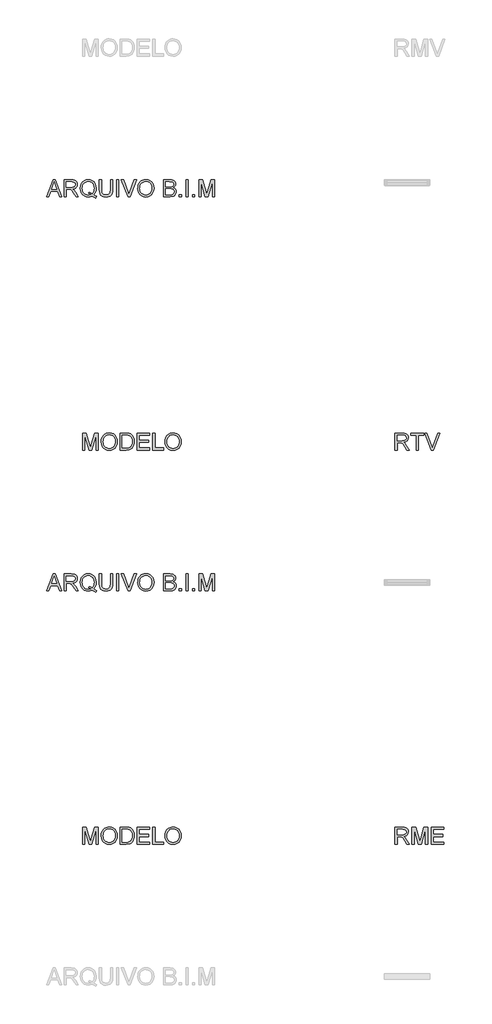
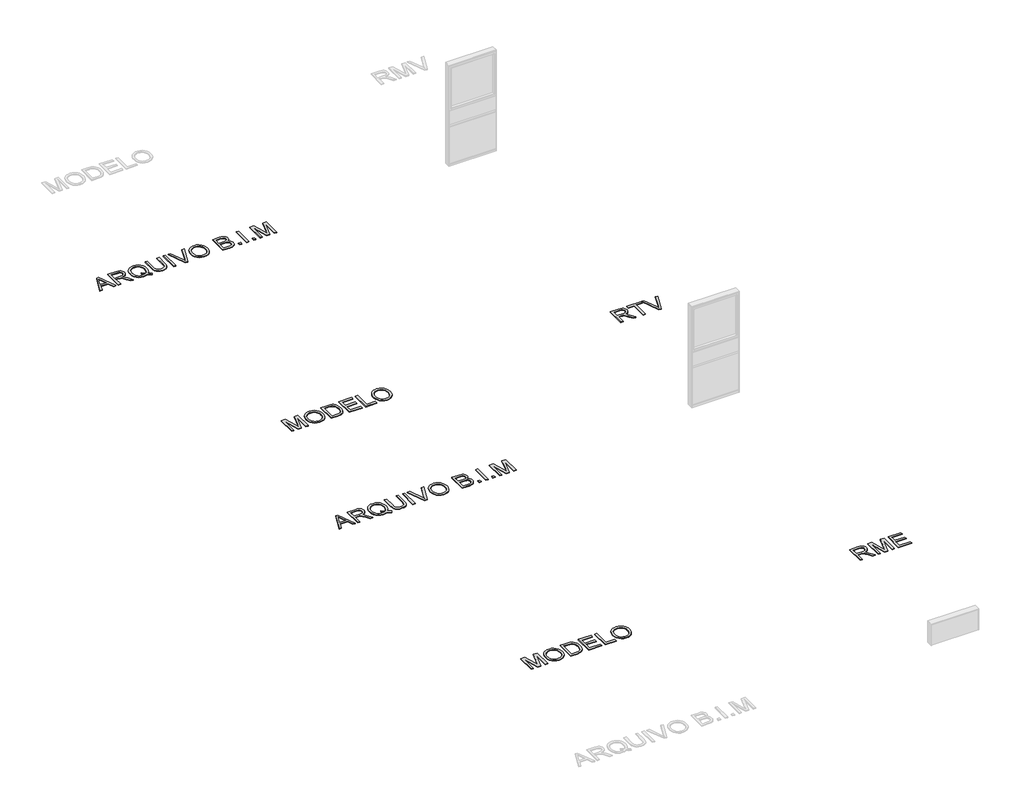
# One storey, part 4 of 15: 6 proxies.
"""IFC4 building model written with IfcOpenShell, lengths in millimetres."""

from ifc_helpers import new_model, si_unit, origin, origin_with_axes, place, context, project, spatial, polyline, outline, extrude, element, save

model = new_model("IFC4")

# Units and contexts
model_context = context("Model", 3, world=origin())
ifc_project = project(units=[si_unit("LENGTHUNIT", "METRE", prefix="MILLI")], contexts=[model_context])

# Site, building, storey
site = spatial("IfcSite", under=ifc_project)
building = spatial("IfcBuilding", under=site)
storey = spatial("IfcBuildingStorey", under=building, Name="Marelli - Linha REASONS - Planta Baixa", Elevation=0.0)

# Proxies
placement = place(None, origin())
element("IfcBuildingElementProxy", 1, Name="300mm Arial", ObjectType="300mm Arial", at=placement, inside=storey, context=model_context, shape_type="SweptSolid", body=[
    extrude(outline(polyline([(9390.580402, -133280.5663201), (9510.8778144, -132979.1973896), (9542.9571244, -132979.1973896), (9663.2545368, -133280.5663201), (9623.449705, -133280.5663201), (9588.9423738, -133186.3885293), (9464.8189886, -133186.3885293), (9430.3852339, -133280.5663201), (9390.580402, -133280.5663201)]), holes=[polyline([(9478.6513517, -133148.717413), (9575.1835872, -133148.717413), (9548.0338959, -133074.6259792), (9526.9174694, -133016.8685059), (9508.1554877, -133068.1512561), (9478.6513517, -133148.717413)])]), origin_with_axes(), (0.0, 0.0, 1.0), 10.0),
    extrude(outline(polyline([(9703.5008271, -133280.5663201), (9703.5008271, -132979.1973896), (9833.3631714, -132979.1973896), (9868.2659757, -132981.2299376), (9893.6590304, -132987.3275817), (9912.2186771, -132998.5847708), (9926.6212572, -133016.0959537), (9935.8642923, -133037.8101885), (9938.945304, -133061.6765329), (9933.8409413, -133091.3646099), (9918.5278533, -133115.9759154), (9906.9280741, -133126.0052983), (9892.5461874, -133134.0205273), (9855.4360911, -133144.0085235), (9876.8468232, -133160.1217548), (9907.3810288, -133198.8965171), (9957.6337094, -133280.5663201), (9913.855752, -133280.5663201), (9874.6395313, -133218.0999573), (9846.3126176, -133176.750021), (9826.4102017, -133157.2154871), (9808.4943485, -133150.0417882), (9786.642158, -133148.717413), (9741.1719434, -133148.717413), (9741.1719434, -133280.5663201), (9703.5008271, -133280.5663201)]), holes=[polyline([(9741.1719434, -133111.0462967), (9825.4904967, -133111.0462967), (9849.706329, -133109.7127245), (9868.4959019, -133105.7120078), (9882.6409647, -133098.7774322), (9892.9232664, -133088.6422832), (9899.1864574, -133076.3826157), (9901.2741877, -133063.0744845), (9897.2918651, -133044.6987789), (9885.3448973, -133029.8915286), (9864.7894908, -133020.1242616), (9834.9818522, -133016.8685059), (9741.1719434, -133016.8685059), (9741.1719434, -133111.0462967)])]), origin_with_axes(), (0.0, 0.0, 1.0), 10.0),
    extrude(outline(polyline([(10231.2643374, -133244.4403081), (10255.5997314, -133263.036743), (10277.9853508, -133275.8574305), (10267.8318077, -133303.4485802), (10236.7641732, -133289.0460001), (10205.8069033, -133268.205485), (10170.9500843, -133281.0077785), (10132.5983863, -133285.2752096), (10094.0627473, -133280.3547879), (10059.2427164, -133265.5935229), (10030.0788713, -133241.9203165), (10008.5117893, -133210.2640708), (9995.185264, -133172.3630282), (9990.7430889, -133129.9554312), (9995.176067, -133087.511046), (10008.4750011, -133049.0581805), (10029.9593096, -133016.9512794), (10058.9484108, -132993.5447874), (10093.639683, -132979.2525719), (10132.2305043, -132974.4885001), (10171.1248282, -132979.3629365), (10205.9908443, -132993.9862458), (10234.9339603, -133017.3835407), (10256.0595839, -133048.5799339), (10268.9722419, -133085.9199564), (10273.2764612, -133127.7481393), (10270.6644991, -133162.5313819), (10262.8286126, -133193.5990164), (10249.7136194, -133220.9142546), (10231.2643374, -133244.4403081)]), holes=[polyline([(10142.9726585, -133194.3347804), (10174.6472983, -133206.3093393), (10200.215097, -133222.9559996), (10215.6983305, -133205.4816049), (10226.7577829, -133184.1076609), (10233.3934544, -133158.8341679), (10235.6053449, -133129.6611256), (10232.478348, -133096.5057608), (10223.0973571, -133067.8201623), (10207.6922985, -133044.3308969), (10186.4930986, -133026.7645316), (10160.934497, -133015.8108452), (10132.4512335, -133012.1596164), (10110.966925, -133014.0059242), (10091.3956028, -133019.5448474), (10073.7372671, -133028.7763863), (10057.9919177, -133041.7005406), (10045.0516685, -133058.2897193), (10035.8086334, -133078.5163313), (10030.2628123, -133102.3803764), (10028.4142052, -133129.8818548), (10030.2421189, -133156.6659634), (10035.7258599, -133180.1437324), (10044.8654282, -133200.3151621), (10057.6608239, -133217.1802523), (10073.2981079, -133230.4906827), (10090.9633415, -133239.9981331), (10110.6565245, -133245.7026032), (10132.3776571, -133247.6040933), (10153.2917485, -133245.6727128), (10172.918253, -133239.8785714), (10153.6228423, -133229.853787), (10133.2605739, -133223.1767288), (10142.9726585, -133194.3347804)])]), origin_with_axes(), (0.0, 0.0, 1.0), 10.0),
    extrude(outline(polyline([(10527.5564963, -132979.1973896), (10565.2276126, -132979.1973896), (10565.2276126, -133153.0584205), (10562.6708327, -133193.7737604), (10555.0004931, -133225.1265034), (10540.6714894, -133249.3147446), (10518.1387172, -133268.5365788), (10487.3469942, -133281.0905519), (10448.2411381, -133285.2752096), (10409.9906077, -133281.6331779), (10379.4104168, -133270.7070826), (10356.4913685, -133252.8740029), (10341.2242657, -133228.5110178), (10332.6434182, -133195.8338995), (10329.7831357, -133153.0584205), (10329.7831357, -132979.1973896), (10367.454252, -132979.1973896), (10367.454252, -133151.7340454), (10369.3120561, -133185.588386), (10374.8854683, -133209.1604248), (10384.9838291, -133225.4851883), (10400.4164788, -133237.597703), (10420.5396239, -133245.1024957), (10444.709471, -133247.6040933), (10483.0243808, -133242.6560805), (10497.3671801, -133236.4710644), (10508.500209, -133227.812042), (10516.8373347, -133215.6351479), (10522.7924245, -133198.8965171), (10527.5564963, -133151.7340454), (10527.5564963, -132979.1973896)])), origin_with_axes(), (0.0, 0.0, 1.0), 10.0),
    extrude(outline(polyline([(10635.8609557, -133280.5663201), (10635.8609557, -132979.1973896), (10673.532072, -132979.1973896), (10673.532072, -133280.5663201), (10635.8609557, -133280.5663201)])), origin_with_axes(), (0.0, 0.0, 1.0), 10.0),
    extrude(outline(polyline([(10837.9017474, -133280.5663201), (10717.972217, -132979.1973896), (10758.2920837, -132979.1973896), (10838.563935, -133196.3213432), (10854.8243192, -133245.2496485), (10870.8639742, -133196.3213432), (10951.3565547, -132979.1973896), (10991.6764214, -132979.1973896), (10876.8236625, -133280.5663201), (10837.9017474, -133280.5663201)])), origin_with_axes(), (0.0, 0.0, 1.0), 10.0),
    extrude(outline(polyline([(11012.5721187, -133133.8549804), (11015.0829134, -133098.5061192), (11022.6152972, -133067.213157), (11035.1692703, -133039.9760937), (11052.7448326, -133016.7949295), (11074.288922, -132998.2858666), (11098.7484761, -132985.0651074), (11126.1234951, -132977.1326519), (11156.4139789, -132974.4885001), (11195.9428992, -132979.454907), (11231.3883295, -132994.3541278), (11260.8188891, -133018.1376988), (11282.3031976, -133049.7571563), (11295.4365848, -133087.68579), (11299.8143806, -133130.3968896), (11295.2066586, -133173.6782064), (11281.3834926, -133212.140269), (11259.1082378, -133243.8149088), (11229.1442493, -133266.733957), (11194.0023217, -133280.6398965), (11156.1932497, -133285.2752096), (11116.057324, -133280.1524528), (11080.4095587, -133264.7841825), (11051.0525754, -133240.5591531), (11029.7889961, -133208.8661192), (11016.8763381, -133172.3998164), (11012.5721187, -133133.8549804)]), holes=[polyline([(11050.2432351, -133134.2228624), (11052.126331, -133159.1974513), (11057.7756189, -133181.3669401), (11067.1910987, -133200.7313286), (11080.3727705, -133217.2906169), (11096.3963306, -133230.5527628), (11114.3374757, -133240.0257242), (11134.1962056, -133245.709501), (11155.9725205, -133247.6040933), (11178.1213158, -133245.6911069), (11198.2145706, -133239.9521478), (11216.2522846, -133230.3872159), (11232.2344581, -133216.9963113), (11245.3195608, -133200.0875351), (11254.6660627, -133179.9689885), (11260.2739639, -133156.6406715), (11262.1432643, -133130.102584), (11258.9426909, -133096.7540812), (11249.3409708, -133067.9305269), (11233.5864244, -133044.358488), (11211.9273719, -133026.7645316), (11185.7985532, -133015.8108452), (11156.6347081, -133012.1596164), (11135.6148506, -133013.9185522), (11116.1125063, -133019.1953595), (11098.1276752, -133027.9900385), (11081.6603574, -133040.302589), (11067.9153664, -133056.7262208), (11058.0975156, -133077.8541437), (11052.2068052, -133103.6863575), (11050.2432351, -133134.2228624)])]), origin_with_axes(), (0.0, 0.0, 1.0), 10.0),
    extrude(outline(polyline([(11469.334404, -133280.5663201), (11469.334404, -132979.1973896), (11584.3343156, -132979.1973896), (11615.9629702, -132981.4138786), (11640.6570491, -132988.0633457), (11659.5845778, -132999.3113377), (11673.9135815, -133015.3234015), (11682.9358874, -133034.1589597), (11685.9433227, -133053.8774346), (11683.414134, -133072.0232141), (11675.8265679, -133089.0837416), (11663.125442, -133104.0105535), (11645.2555741, -133115.7551862), (11666.6019268, -133126.9020107), (11682.3748674, -133143.8613707), (11692.1145432, -133165.5112261), (11695.3611018, -133190.7295368), (11693.1446128, -133211.7447958), (11686.4951457, -133231.2333445), (11676.5715289, -133247.8064284), (11664.5325906, -133260.0752929), (11649.7897196, -133268.9596431), (11631.7543048, -133275.3791839), (11583.4513989, -133280.5663201), (11469.334404, -133280.5663201)]), holes=[polyline([(11507.0055203, -133101.6285176), (11575.7994534, -133101.6285176), (11615.9721672, -133098.3911561), (11630.0344565, -133092.8085468), (11640.1420143, -133084.4484284), (11646.2396584, -133073.4395597), (11648.2722064, -133059.9106994), (11646.3776141, -133046.7773121), (11640.6938373, -133035.3361821), (11631.4783933, -133026.4058467), (11618.9887996, -133020.8048433), (11570.575529, -133016.8685059), (11507.0055203, -133016.8685059), (11507.0055203, -133101.6285176)]), polyline([(11507.0055203, -133242.8952038), (11584.2607393, -133242.8952038), (11612.2197709, -133241.4236758), (11635.8745832, -133233.2199073), (11651.5463562, -133216.4812765), (11656.1540782, -133204.6538704), (11657.6899855, -133191.0974188), (11655.8873637, -133175.3520694), (11650.4794984, -133161.814012), (11641.0341282, -133151.2282076), (11627.1189917, -133144.3396173), (11607.4097138, -133140.5596298), (11580.5819193, -133139.2996339), (11507.0055203, -133139.2996339), (11507.0055203, -133242.8952038)])]), origin_with_axes(), (0.0, 0.0, 1.0), 10.0),
    extrude(outline(polyline([(11751.8677763, -133280.5663201), (11751.8677763, -133242.8952038), (11789.5388926, -133242.8952038), (11789.5388926, -133280.5663201), (11751.8677763, -133280.5663201)])), origin_with_axes(), (0.0, 0.0, 1.0), 10.0),
    extrude(outline(polyline([(11869.5900147, -133280.5663201), (11869.5900147, -132979.1973896), (11907.261131, -132979.1973896), (11907.261131, -133280.5663201), (11869.5900147, -133280.5663201)])), origin_with_axes(), (0.0, 0.0, 1.0), 10.0),
    extrude(outline(polyline([(11987.3122532, -133280.5663201), (11987.3122532, -133242.8952038), (12024.9833695, -133242.8952038), (12024.9833695, -133280.5663201), (11987.3122532, -133280.5663201)])), origin_with_axes(), (0.0, 0.0, 1.0), 10.0),
    extrude(outline(polyline([(12100.3256021, -133280.5663201), (12100.3256021, -132979.1973896), (12165.1464096, -132979.1973896), (12226.803432, -133191.6124536), (12239.2378435, -133235.9790223), (12252.7023245, -133187.9336337), (12313.3292773, -132979.1973896), (12378.1500848, -132979.1973896), (12378.1500848, -133280.5663201), (12340.4789685, -133280.5663201), (12340.4789685, -133016.8685059), (12264.7688539, -133280.5663201), (12213.706833, -133280.5663201), (12137.9967184, -133016.8685059), (12137.9967184, -133280.5663201), (12100.3256021, -133280.5663201)])), origin_with_axes(), (0.0, 0.0, 1.0), 10.0),
])
element("IfcBuildingElementProxy", 2, Name="300mm Arial", ObjectType="300mm Arial", at=placement, inside=storey, context=model_context, shape_type="SweptSolid", body=[
    extrude(outline(polyline([(10033.1230948, -144780.5663201), (10033.1230948, -144479.1973896), (10097.9439023, -144479.1973896), (10159.6009247, -144691.6124536), (10172.0353362, -144735.9790223), (10185.4998172, -144687.9336337), (10246.12677, -144479.1973896), (10310.9475775, -144479.1973896), (10310.9475775, -144780.5663201), (10273.2764612, -144780.5663201), (10273.2764612, -144516.8685059), (10197.5663466, -144780.5663201), (10146.5043257, -144780.5663201), (10070.7942111, -144516.8685059), (10070.7942111, -144780.5663201), (10033.1230948, -144780.5663201)])), origin_with_axes(), (0.0, 0.0, 1.0), 10.0),
    extrude(outline(polyline([(10362.7453625, -144633.8549804), (10365.2561571, -144598.5061192), (10372.7885409, -144567.213157), (10385.342514, -144539.9760937), (10402.9180763, -144516.7949295), (10424.4621657, -144498.2858666), (10448.9217198, -144485.0651074), (10476.2967388, -144477.1326519), (10506.5872226, -144474.4885001), (10546.116143, -144479.454907), (10581.5615732, -144494.3541278), (10610.9921328, -144518.1376988), (10632.4764413, -144549.7571563), (10645.6098286, -144587.68579), (10649.9876243, -144630.3968896), (10645.3799023, -144673.6782064), (10631.5567363, -144712.140269), (10609.2814815, -144743.8149088), (10579.317493, -144766.733957), (10544.1755654, -144780.6398965), (10506.3664934, -144785.2752096), (10466.2305677, -144780.1524528), (10430.5828024, -144764.7841825), (10401.2258192, -144740.5591531), (10379.9622398, -144708.8661192), (10367.0495818, -144672.3998164), (10362.7453625, -144633.8549804)]), holes=[polyline([(10400.4164788, -144634.2228624), (10402.2995747, -144659.1974513), (10407.9488626, -144681.3669401), (10417.3643424, -144700.7313286), (10430.5460142, -144717.2906169), (10446.5695743, -144730.5527628), (10464.5107194, -144740.0257242), (10484.3694493, -144745.709501), (10506.1457642, -144747.6040933), (10528.2945596, -144745.6911069), (10548.3878143, -144739.9521478), (10566.4255284, -144730.3872159), (10582.4077018, -144716.9963113), (10595.4928045, -144700.0875351), (10604.8393064, -144679.9689885), (10610.4472076, -144656.6406715), (10612.316508, -144630.102584), (10609.1159346, -144596.7540812), (10599.5142146, -144567.9305269), (10583.7596681, -144544.358488), (10562.1006157, -144526.7645316), (10535.9717969, -144515.8108452), (10506.8079518, -144512.1596164), (10485.7880943, -144513.9185522), (10466.28575, -144519.1953595), (10448.300919, -144527.9900385), (10431.8336012, -144540.302589), (10418.0886101, -144556.7262208), (10408.2707594, -144577.8541437), (10402.3800489, -144603.6863575), (10400.4164788, -144634.2228624)])]), origin_with_axes(), (0.0, 0.0, 1.0), 10.0),
    extrude(outline(polyline([(10701.7854092, -144780.5663201), (10701.7854092, -144479.1973896), (10805.7488611, -144479.1973896), (10859.5332088, -144483.5383972), (10883.555903, -144491.9077126), (10903.826201, -144505.0962821), (10924.666716, -144528.0521186), (10939.5107545, -144556.5997614), (10948.3951047, -144590.1873876), (10951.3565547, -144628.2631741), (10949.3515979, -144660.6091985), (10943.3367273, -144689.0740679), (10934.1764656, -144713.3082943), (10922.7353355, -144732.9623899), (10909.5651601, -144748.477813), (10895.2177623, -144760.2960221), (10878.745846, -144769.0608107), (10859.202115, -144775.4159721), (10810.7520562, -144780.5663201), (10701.7854092, -144780.5663201)]), holes=[polyline([(10739.4565255, -144742.8952038), (10806.1167431, -144742.8952038), (10833.6894986, -144741.5340404), (10854.60359, -144737.4505502), (10870.3857276, -144730.8838566), (10882.5626217, -144722.0730828), (10895.6500236, -144705.7667134), (10905.48167, -144684.6594839), (10911.6344963, -144658.6594239), (10913.6854384, -144627.6745629), (10909.6663276, -144586.6189322), (10897.6089953, -144556.3054558), (10879.7943096, -144535.4833349), (10858.5031392, -144522.9017706), (10836.8348897, -144518.3768221), (10805.0866735, -144516.8685059), (10739.4565255, -144516.8685059), (10739.4565255, -144742.8952038)])]), origin_with_axes(), (0.0, 0.0, 1.0), 10.0),
    extrude(outline(polyline([(11003.1543397, -144780.5663201), (11003.1543397, -144479.1973896), (11219.7632584, -144479.1973896), (11219.7632584, -144516.8685059), (11040.825456, -144516.8685059), (11040.825456, -144606.3374072), (11210.3454794, -144606.3374072), (11210.3454794, -144644.0085235), (11040.825456, -144644.0085235), (11040.825456, -144742.8952038), (11224.472148, -144742.8952038), (11224.472148, -144780.5663201), (11003.1543397, -144780.5663201)])), origin_with_axes(), (0.0, 0.0, 1.0), 10.0),
    extrude(outline(polyline([(11280.9788224, -144780.5663201), (11280.9788224, -144479.1973896), (11318.6499387, -144479.1973896), (11318.6499387, -144742.8952038), (11469.334404, -144742.8952038), (11469.334404, -144780.5663201), (11280.9788224, -144780.5663201)])), origin_with_axes(), (0.0, 0.0, 1.0), 10.0),
    extrude(outline(polyline([(11497.5877412, -144633.8549804), (11500.0985358, -144598.5061192), (11507.6309197, -144567.213157), (11520.1848927, -144539.9760937), (11537.7604551, -144516.7949295), (11559.3045444, -144498.2858666), (11583.7640986, -144485.0651074), (11611.1391175, -144477.1326519), (11641.4296013, -144474.4885001), (11680.9585217, -144479.454907), (11716.4039519, -144494.3541278), (11745.8345115, -144518.1376988), (11767.3188201, -144549.7571563), (11780.4522073, -144587.68579), (11784.830003, -144630.3968896), (11780.222281, -144673.6782064), (11766.3991151, -144712.140269), (11744.1238603, -144743.8149088), (11714.1598717, -144766.733957), (11679.0179442, -144780.6398965), (11641.2088721, -144785.2752096), (11601.0729464, -144780.1524528), (11565.4251811, -144764.7841825), (11536.0681979, -144740.5591531), (11514.8046186, -144708.8661192), (11501.8919605, -144672.3998164), (11497.5877412, -144633.8549804)]), holes=[polyline([(11535.2588575, -144634.2228624), (11537.1419535, -144659.1974513), (11542.7912413, -144681.3669401), (11552.2067212, -144700.7313286), (11565.3883929, -144717.2906169), (11581.4119531, -144730.5527628), (11599.3530981, -144740.0257242), (11619.2118281, -144745.709501), (11640.9881429, -144747.6040933), (11663.1369383, -144745.6911069), (11683.230193, -144739.9521478), (11701.2679071, -144730.3872159), (11717.2500805, -144716.9963113), (11730.3351832, -144700.0875351), (11739.6816852, -144679.9689885), (11745.2895863, -144656.6406715), (11747.1588867, -144630.102584), (11743.9583134, -144596.7540812), (11734.3565933, -144567.9305269), (11718.6020468, -144544.358488), (11696.9429944, -144526.7645316), (11670.8141757, -144515.8108452), (11641.6503305, -144512.1596164), (11620.630473, -144513.9185522), (11601.1281287, -144519.1953595), (11583.1432977, -144527.9900385), (11566.6759799, -144540.302589), (11552.9309888, -144556.7262208), (11543.1131381, -144577.8541437), (11537.2224276, -144603.6863575), (11535.2588575, -144634.2228624)])]), origin_with_axes(), (0.0, 0.0, 1.0), 10.0),
])
element("IfcBuildingElementProxy", 3, Name="300mm Arial", ObjectType="300mm Arial", at=placement, inside=storey, context=model_context, shape_type="SweptSolid", body=[
    extrude(outline(polyline([(9390.580402, -140280.5663201), (9510.8778144, -139979.1973896), (9542.9571244, -139979.1973896), (9663.2545368, -140280.5663201), (9623.449705, -140280.5663201), (9588.9423738, -140186.3885293), (9464.8189886, -140186.3885293), (9430.3852339, -140280.5663201), (9390.580402, -140280.5663201)]), holes=[polyline([(9478.6513517, -140148.717413), (9575.1835872, -140148.717413), (9548.0338959, -140074.6259792), (9526.9174694, -140016.8685059), (9508.1554877, -140068.1512561), (9478.6513517, -140148.717413)])]), origin_with_axes(), (0.0, 0.0, 1.0), 10.0),
    extrude(outline(polyline([(9703.5008271, -140280.5663201), (9703.5008271, -139979.1973896), (9833.3631714, -139979.1973896), (9868.2659757, -139981.2299376), (9893.6590304, -139987.3275817), (9912.2186771, -139998.5847708), (9926.6212572, -140016.0959537), (9935.8642923, -140037.8101885), (9938.945304, -140061.6765329), (9933.8409413, -140091.3646099), (9918.5278533, -140115.9759154), (9906.9280741, -140126.0052983), (9892.5461874, -140134.0205273), (9855.4360911, -140144.0085235), (9876.8468232, -140160.1217548), (9907.3810288, -140198.8965171), (9957.6337094, -140280.5663201), (9913.855752, -140280.5663201), (9874.6395313, -140218.0999573), (9846.3126176, -140176.750021), (9826.4102017, -140157.2154871), (9808.4943485, -140150.0417882), (9786.642158, -140148.717413), (9741.1719434, -140148.717413), (9741.1719434, -140280.5663201), (9703.5008271, -140280.5663201)]), holes=[polyline([(9741.1719434, -140111.0462967), (9825.4904967, -140111.0462967), (9849.706329, -140109.7127245), (9868.4959019, -140105.7120078), (9882.6409647, -140098.7774322), (9892.9232664, -140088.6422832), (9899.1864574, -140076.3826157), (9901.2741877, -140063.0744845), (9897.2918651, -140044.6987789), (9885.3448973, -140029.8915286), (9864.7894908, -140020.1242616), (9834.9818522, -140016.8685059), (9741.1719434, -140016.8685059), (9741.1719434, -140111.0462967)])]), origin_with_axes(), (0.0, 0.0, 1.0), 10.0),
    extrude(outline(polyline([(10231.2643374, -140244.4403081), (10255.5997314, -140263.036743), (10277.9853508, -140275.8574305), (10267.8318077, -140303.4485802), (10236.7641732, -140289.0460001), (10205.8069033, -140268.205485), (10170.9500843, -140281.0077785), (10132.5983863, -140285.2752096), (10094.0627473, -140280.3547879), (10059.2427164, -140265.5935229), (10030.0788713, -140241.9203165), (10008.5117893, -140210.2640708), (9995.185264, -140172.3630282), (9990.7430889, -140129.9554312), (9995.176067, -140087.511046), (10008.4750011, -140049.0581805), (10029.9593096, -140016.9512794), (10058.9484108, -139993.5447874), (10093.639683, -139979.2525719), (10132.2305043, -139974.4885001), (10171.1248282, -139979.3629365), (10205.9908443, -139993.9862458), (10234.9339603, -140017.3835407), (10256.0595839, -140048.5799339), (10268.9722419, -140085.9199564), (10273.2764612, -140127.7481393), (10270.6644991, -140162.5313819), (10262.8286126, -140193.5990164), (10249.7136194, -140220.9142546), (10231.2643374, -140244.4403081)]), holes=[polyline([(10142.9726585, -140194.3347804), (10174.6472983, -140206.3093393), (10200.215097, -140222.9559996), (10215.6983305, -140205.4816049), (10226.7577829, -140184.1076609), (10233.3934544, -140158.8341679), (10235.6053449, -140129.6611256), (10232.478348, -140096.5057608), (10223.0973571, -140067.8201623), (10207.6922985, -140044.3308969), (10186.4930986, -140026.7645316), (10160.934497, -140015.8108452), (10132.4512335, -140012.1596164), (10110.966925, -140014.0059242), (10091.3956028, -140019.5448474), (10073.7372671, -140028.7763863), (10057.9919177, -140041.7005406), (10045.0516685, -140058.2897193), (10035.8086334, -140078.5163313), (10030.2628123, -140102.3803764), (10028.4142052, -140129.8818548), (10030.2421189, -140156.6659634), (10035.7258599, -140180.1437324), (10044.8654282, -140200.3151621), (10057.6608239, -140217.1802523), (10073.2981079, -140230.4906827), (10090.9633415, -140239.9981331), (10110.6565245, -140245.7026032), (10132.3776571, -140247.6040933), (10153.2917485, -140245.6727128), (10172.918253, -140239.8785714), (10153.6228423, -140229.853787), (10133.2605739, -140223.1767288), (10142.9726585, -140194.3347804)])]), origin_with_axes(), (0.0, 0.0, 1.0), 10.0),
    extrude(outline(polyline([(10527.5564963, -139979.1973896), (10565.2276126, -139979.1973896), (10565.2276126, -140153.0584205), (10562.6708327, -140193.7737604), (10555.0004931, -140225.1265034), (10540.6714894, -140249.3147446), (10518.1387172, -140268.5365788), (10487.3469942, -140281.0905519), (10448.2411381, -140285.2752096), (10409.9906077, -140281.6331779), (10379.4104168, -140270.7070826), (10356.4913685, -140252.8740029), (10341.2242657, -140228.5110178), (10332.6434182, -140195.8338995), (10329.7831357, -140153.0584205), (10329.7831357, -139979.1973896), (10367.454252, -139979.1973896), (10367.454252, -140151.7340454), (10369.3120561, -140185.588386), (10374.8854683, -140209.1604248), (10384.9838291, -140225.4851883), (10400.4164788, -140237.597703), (10420.5396239, -140245.1024957), (10444.709471, -140247.6040933), (10483.0243808, -140242.6560805), (10497.3671801, -140236.4710644), (10508.500209, -140227.812042), (10516.8373347, -140215.6351479), (10522.7924245, -140198.8965171), (10527.5564963, -140151.7340454), (10527.5564963, -139979.1973896)])), origin_with_axes(), (0.0, 0.0, 1.0), 10.0),
    extrude(outline(polyline([(10635.8609557, -140280.5663201), (10635.8609557, -139979.1973896), (10673.532072, -139979.1973896), (10673.532072, -140280.5663201), (10635.8609557, -140280.5663201)])), origin_with_axes(), (0.0, 0.0, 1.0), 10.0),
    extrude(outline(polyline([(10837.9017474, -140280.5663201), (10717.972217, -139979.1973896), (10758.2920837, -139979.1973896), (10838.563935, -140196.3213432), (10854.8243192, -140245.2496485), (10870.8639742, -140196.3213432), (10951.3565547, -139979.1973896), (10991.6764214, -139979.1973896), (10876.8236625, -140280.5663201), (10837.9017474, -140280.5663201)])), origin_with_axes(), (0.0, 0.0, 1.0), 10.0),
    extrude(outline(polyline([(11012.5721187, -140133.8549804), (11015.0829134, -140098.5061192), (11022.6152972, -140067.213157), (11035.1692703, -140039.9760937), (11052.7448326, -140016.7949295), (11074.288922, -139998.2858666), (11098.7484761, -139985.0651074), (11126.1234951, -139977.1326519), (11156.4139789, -139974.4885001), (11195.9428992, -139979.454907), (11231.3883295, -139994.3541278), (11260.8188891, -140018.1376988), (11282.3031976, -140049.7571563), (11295.4365848, -140087.68579), (11299.8143806, -140130.3968896), (11295.2066586, -140173.6782064), (11281.3834926, -140212.140269), (11259.1082378, -140243.8149088), (11229.1442493, -140266.733957), (11194.0023217, -140280.6398965), (11156.1932497, -140285.2752096), (11116.057324, -140280.1524528), (11080.4095587, -140264.7841825), (11051.0525754, -140240.5591531), (11029.7889961, -140208.8661192), (11016.8763381, -140172.3998164), (11012.5721187, -140133.8549804)]), holes=[polyline([(11050.2432351, -140134.2228624), (11052.126331, -140159.1974513), (11057.7756189, -140181.3669401), (11067.1910987, -140200.7313286), (11080.3727705, -140217.2906169), (11096.3963306, -140230.5527628), (11114.3374757, -140240.0257242), (11134.1962056, -140245.709501), (11155.9725205, -140247.6040933), (11178.1213158, -140245.6911069), (11198.2145706, -140239.9521478), (11216.2522846, -140230.3872159), (11232.2344581, -140216.9963113), (11245.3195608, -140200.0875351), (11254.6660627, -140179.9689885), (11260.2739639, -140156.6406715), (11262.1432643, -140130.102584), (11258.9426909, -140096.7540812), (11249.3409708, -140067.9305269), (11233.5864244, -140044.358488), (11211.9273719, -140026.7645316), (11185.7985532, -140015.8108452), (11156.6347081, -140012.1596164), (11135.6148506, -140013.9185522), (11116.1125063, -140019.1953595), (11098.1276752, -140027.9900385), (11081.6603574, -140040.302589), (11067.9153664, -140056.7262208), (11058.0975156, -140077.8541437), (11052.2068052, -140103.6863575), (11050.2432351, -140134.2228624)])]), origin_with_axes(), (0.0, 0.0, 1.0), 10.0),
    extrude(outline(polyline([(11469.334404, -140280.5663201), (11469.334404, -139979.1973896), (11584.3343156, -139979.1973896), (11615.9629702, -139981.4138786), (11640.6570491, -139988.0633457), (11659.5845778, -139999.3113377), (11673.9135815, -140015.3234015), (11682.9358874, -140034.1589597), (11685.9433227, -140053.8774346), (11683.414134, -140072.0232141), (11675.8265679, -140089.0837416), (11663.125442, -140104.0105535), (11645.2555741, -140115.7551862), (11666.6019268, -140126.9020107), (11682.3748674, -140143.8613707), (11692.1145432, -140165.5112261), (11695.3611018, -140190.7295368), (11693.1446128, -140211.7447958), (11686.4951457, -140231.2333445), (11676.5715289, -140247.8064284), (11664.5325906, -140260.0752929), (11649.7897196, -140268.9596431), (11631.7543048, -140275.3791839), (11583.4513989, -140280.5663201), (11469.334404, -140280.5663201)]), holes=[polyline([(11507.0055203, -140101.6285176), (11575.7994534, -140101.6285176), (11615.9721672, -140098.3911561), (11630.0344565, -140092.8085468), (11640.1420143, -140084.4484284), (11646.2396584, -140073.4395597), (11648.2722064, -140059.9106994), (11646.3776141, -140046.7773121), (11640.6938373, -140035.3361821), (11631.4783933, -140026.4058467), (11618.9887996, -140020.8048433), (11570.575529, -140016.8685059), (11507.0055203, -140016.8685059), (11507.0055203, -140101.6285176)]), polyline([(11507.0055203, -140242.8952038), (11584.2607393, -140242.8952038), (11612.2197709, -140241.4236758), (11635.8745832, -140233.2199073), (11651.5463562, -140216.4812765), (11656.1540782, -140204.6538704), (11657.6899855, -140191.0974188), (11655.8873637, -140175.3520694), (11650.4794984, -140161.814012), (11641.0341282, -140151.2282076), (11627.1189917, -140144.3396173), (11607.4097138, -140140.5596298), (11580.5819193, -140139.2996339), (11507.0055203, -140139.2996339), (11507.0055203, -140242.8952038)])]), origin_with_axes(), (0.0, 0.0, 1.0), 10.0),
    extrude(outline(polyline([(11751.8677763, -140280.5663201), (11751.8677763, -140242.8952038), (11789.5388926, -140242.8952038), (11789.5388926, -140280.5663201), (11751.8677763, -140280.5663201)])), origin_with_axes(), (0.0, 0.0, 1.0), 10.0),
    extrude(outline(polyline([(11869.5900147, -140280.5663201), (11869.5900147, -139979.1973896), (11907.261131, -139979.1973896), (11907.261131, -140280.5663201), (11869.5900147, -140280.5663201)])), origin_with_axes(), (0.0, 0.0, 1.0), 10.0),
    extrude(outline(polyline([(11987.3122532, -140280.5663201), (11987.3122532, -140242.8952038), (12024.9833695, -140242.8952038), (12024.9833695, -140280.5663201), (11987.3122532, -140280.5663201)])), origin_with_axes(), (0.0, 0.0, 1.0), 10.0),
    extrude(outline(polyline([(12100.3256021, -140280.5663201), (12100.3256021, -139979.1973896), (12165.1464096, -139979.1973896), (12226.803432, -140191.6124536), (12239.2378435, -140235.9790223), (12252.7023245, -140187.9336337), (12313.3292773, -139979.1973896), (12378.1500848, -139979.1973896), (12378.1500848, -140280.5663201), (12340.4789685, -140280.5663201), (12340.4789685, -140016.8685059), (12264.7688539, -140280.5663201), (12213.706833, -140280.5663201), (12137.9967184, -140016.8685059), (12137.9967184, -140280.5663201), (12100.3256021, -140280.5663201)])), origin_with_axes(), (0.0, 0.0, 1.0), 10.0),
])
element("IfcBuildingElementProxy", 4, Name="300mm Arial", ObjectType="300mm Arial", at=placement, inside=storey, context=model_context, shape_type="SweptSolid", body=[
    extrude(outline(polyline([(10033.1230948, -137780.5663201), (10033.1230948, -137479.1973896), (10097.9439023, -137479.1973896), (10159.6009247, -137691.6124536), (10172.0353362, -137735.9790223), (10185.4998172, -137687.9336337), (10246.12677, -137479.1973896), (10310.9475775, -137479.1973896), (10310.9475775, -137780.5663201), (10273.2764612, -137780.5663201), (10273.2764612, -137516.8685059), (10197.5663466, -137780.5663201), (10146.5043257, -137780.5663201), (10070.7942111, -137516.8685059), (10070.7942111, -137780.5663201), (10033.1230948, -137780.5663201)])), origin_with_axes(), (0.0, 0.0, 1.0), 10.0),
    extrude(outline(polyline([(10362.7453625, -137633.8549804), (10365.2561571, -137598.5061192), (10372.7885409, -137567.213157), (10385.342514, -137539.9760937), (10402.9180763, -137516.7949295), (10424.4621657, -137498.2858666), (10448.9217198, -137485.0651074), (10476.2967388, -137477.1326519), (10506.5872226, -137474.4885001), (10546.116143, -137479.454907), (10581.5615732, -137494.3541278), (10610.9921328, -137518.1376988), (10632.4764413, -137549.7571563), (10645.6098286, -137587.68579), (10649.9876243, -137630.3968896), (10645.3799023, -137673.6782064), (10631.5567363, -137712.140269), (10609.2814815, -137743.8149088), (10579.317493, -137766.733957), (10544.1755654, -137780.6398965), (10506.3664934, -137785.2752096), (10466.2305677, -137780.1524528), (10430.5828024, -137764.7841825), (10401.2258192, -137740.5591531), (10379.9622398, -137708.8661192), (10367.0495818, -137672.3998164), (10362.7453625, -137633.8549804)]), holes=[polyline([(10400.4164788, -137634.2228624), (10402.2995747, -137659.1974513), (10407.9488626, -137681.3669401), (10417.3643424, -137700.7313286), (10430.5460142, -137717.2906169), (10446.5695743, -137730.5527628), (10464.5107194, -137740.0257242), (10484.3694493, -137745.709501), (10506.1457642, -137747.6040933), (10528.2945596, -137745.6911069), (10548.3878143, -137739.9521478), (10566.4255284, -137730.3872159), (10582.4077018, -137716.9963113), (10595.4928045, -137700.0875351), (10604.8393064, -137679.9689885), (10610.4472076, -137656.6406715), (10612.316508, -137630.102584), (10609.1159346, -137596.7540812), (10599.5142146, -137567.9305269), (10583.7596681, -137544.358488), (10562.1006157, -137526.7645316), (10535.9717969, -137515.8108452), (10506.8079518, -137512.1596164), (10485.7880943, -137513.9185522), (10466.28575, -137519.1953595), (10448.300919, -137527.9900385), (10431.8336012, -137540.302589), (10418.0886101, -137556.7262208), (10408.2707594, -137577.8541437), (10402.3800489, -137603.6863575), (10400.4164788, -137634.2228624)])]), origin_with_axes(), (0.0, 0.0, 1.0), 10.0),
    extrude(outline(polyline([(10701.7854092, -137780.5663201), (10701.7854092, -137479.1973896), (10805.7488611, -137479.1973896), (10859.5332088, -137483.5383972), (10883.555903, -137491.9077126), (10903.826201, -137505.0962821), (10924.666716, -137528.0521186), (10939.5107545, -137556.5997614), (10948.3951047, -137590.1873876), (10951.3565547, -137628.2631741), (10949.3515979, -137660.6091985), (10943.3367273, -137689.0740679), (10934.1764656, -137713.3082943), (10922.7353355, -137732.9623899), (10909.5651601, -137748.477813), (10895.2177623, -137760.2960221), (10878.745846, -137769.0608107), (10859.202115, -137775.4159721), (10810.7520562, -137780.5663201), (10701.7854092, -137780.5663201)]), holes=[polyline([(10739.4565255, -137742.8952038), (10806.1167431, -137742.8952038), (10833.6894986, -137741.5340404), (10854.60359, -137737.4505502), (10870.3857276, -137730.8838566), (10882.5626217, -137722.0730828), (10895.6500236, -137705.7667134), (10905.48167, -137684.6594839), (10911.6344963, -137658.6594239), (10913.6854384, -137627.6745629), (10909.6663276, -137586.6189322), (10897.6089953, -137556.3054558), (10879.7943096, -137535.4833349), (10858.5031392, -137522.9017706), (10836.8348897, -137518.3768221), (10805.0866735, -137516.8685059), (10739.4565255, -137516.8685059), (10739.4565255, -137742.8952038)])]), origin_with_axes(), (0.0, 0.0, 1.0), 10.0),
    extrude(outline(polyline([(11003.1543397, -137780.5663201), (11003.1543397, -137479.1973896), (11219.7632584, -137479.1973896), (11219.7632584, -137516.8685059), (11040.825456, -137516.8685059), (11040.825456, -137606.3374072), (11210.3454794, -137606.3374072), (11210.3454794, -137644.0085235), (11040.825456, -137644.0085235), (11040.825456, -137742.8952038), (11224.472148, -137742.8952038), (11224.472148, -137780.5663201), (11003.1543397, -137780.5663201)])), origin_with_axes(), (0.0, 0.0, 1.0), 10.0),
    extrude(outline(polyline([(11280.9788224, -137780.5663201), (11280.9788224, -137479.1973896), (11318.6499387, -137479.1973896), (11318.6499387, -137742.8952038), (11469.334404, -137742.8952038), (11469.334404, -137780.5663201), (11280.9788224, -137780.5663201)])), origin_with_axes(), (0.0, 0.0, 1.0), 10.0),
    extrude(outline(polyline([(11497.5877412, -137633.8549804), (11500.0985358, -137598.5061192), (11507.6309197, -137567.213157), (11520.1848927, -137539.9760937), (11537.7604551, -137516.7949295), (11559.3045444, -137498.2858666), (11583.7640986, -137485.0651074), (11611.1391175, -137477.1326519), (11641.4296013, -137474.4885001), (11680.9585217, -137479.454907), (11716.4039519, -137494.3541278), (11745.8345115, -137518.1376988), (11767.3188201, -137549.7571563), (11780.4522073, -137587.68579), (11784.830003, -137630.3968896), (11780.222281, -137673.6782064), (11766.3991151, -137712.140269), (11744.1238603, -137743.8149088), (11714.1598717, -137766.733957), (11679.0179442, -137780.6398965), (11641.2088721, -137785.2752096), (11601.0729464, -137780.1524528), (11565.4251811, -137764.7841825), (11536.0681979, -137740.5591531), (11514.8046186, -137708.8661192), (11501.8919605, -137672.3998164), (11497.5877412, -137633.8549804)]), holes=[polyline([(11535.2588575, -137634.2228624), (11537.1419535, -137659.1974513), (11542.7912413, -137681.3669401), (11552.2067212, -137700.7313286), (11565.3883929, -137717.2906169), (11581.4119531, -137730.5527628), (11599.3530981, -137740.0257242), (11619.2118281, -137745.709501), (11640.9881429, -137747.6040933), (11663.1369383, -137745.6911069), (11683.230193, -137739.9521478), (11701.2679071, -137730.3872159), (11717.2500805, -137716.9963113), (11730.3351832, -137700.0875351), (11739.6816852, -137679.9689885), (11745.2895863, -137656.6406715), (11747.1588867, -137630.102584), (11743.9583134, -137596.7540812), (11734.3565933, -137567.9305269), (11718.6020468, -137544.358488), (11696.9429944, -137526.7645316), (11670.8141757, -137515.8108452), (11641.6503305, -137512.1596164), (11620.630473, -137513.9185522), (11601.1281287, -137519.1953595), (11583.1432977, -137527.9900385), (11566.6759799, -137540.302589), (11552.9309888, -137556.7262208), (11543.1131381, -137577.8541437), (11537.2224276, -137603.6863575), (11535.2588575, -137634.2228624)])]), origin_with_axes(), (0.0, 0.0, 1.0), 10.0),
])
element("IfcBuildingElementProxy", 5, Name="300mm Arial", ObjectType="300mm Arial", at=placement, inside=storey, context=model_context, shape_type="SweptSolid", body=[
    extrude(outline(polyline([(15588.7720603, -137780.5663201), (15588.7720603, -137479.1973896), (15718.6344046, -137479.1973896), (15753.5372089, -137481.2299376), (15778.9302636, -137487.3275817), (15797.4899103, -137498.5847708), (15811.8924904, -137516.0959537), (15821.1355255, -137537.8101885), (15824.2165372, -137561.6765329), (15819.1121745, -137591.3646099), (15803.7990865, -137615.9759154), (15792.1993073, -137626.0052983), (15777.8174206, -137634.0205273), (15740.7073243, -137644.0085235), (15762.1180564, -137660.1217548), (15792.652262, -137698.8965171), (15842.9049426, -137780.5663201), (15799.1269851, -137780.5663201), (15759.9107645, -137718.0999573), (15731.5838508, -137676.750021), (15711.6814349, -137657.2154871), (15693.7655817, -137650.0417882), (15671.9133912, -137648.717413), (15626.4431766, -137648.717413), (15626.4431766, -137780.5663201), (15588.7720603, -137780.5663201)]), holes=[polyline([(15626.4431766, -137611.0462967), (15710.7617299, -137611.0462967), (15734.9775622, -137609.7127245), (15753.7671351, -137605.7120078), (15767.9121979, -137598.7774322), (15778.1944996, -137588.6422832), (15784.4576906, -137576.3826157), (15786.5454209, -137563.0744845), (15782.5630983, -137544.6987789), (15770.6161305, -137529.8915286), (15750.060724, -137520.1242616), (15720.2530854, -137516.8685059), (15626.4431766, -137516.8685059), (15626.4431766, -137611.0462967)])]), origin_with_axes(), (0.0, 0.0, 1.0), 10.0),
    extrude(outline(polyline([(15965.4832234, -137780.5663201), (15965.4832234, -137516.8685059), (15866.5965431, -137516.8685059), (15866.5965431, -137479.1973896), (16102.04102, -137479.1973896), (16102.04102, -137516.8685059), (16003.1543397, -137516.8685059), (16003.1543397, -137780.5663201), (15965.4832234, -137780.5663201)])), origin_with_axes(), (0.0, 0.0, 1.0), 10.0),
    extrude(outline(polyline([(16233.4484687, -137780.5663201), (16113.5189382, -137479.1973896), (16153.8388049, -137479.1973896), (16234.1106562, -137696.3213432), (16250.3710404, -137745.2496485), (16266.4106954, -137696.3213432), (16346.903276, -137479.1973896), (16387.2231426, -137479.1973896), (16272.3703837, -137780.5663201), (16233.4484687, -137780.5663201)])), origin_with_axes(), (0.0, 0.0, 1.0), 10.0),
])
element("IfcBuildingElementProxy", 6, Name="300mm Arial", ObjectType="300mm Arial", at=placement, inside=storey, context=model_context, shape_type="SweptSolid", body=[
    extrude(outline(polyline([(15588.7720603, -144780.5663201), (15588.7720603, -144479.1973896), (15718.6344046, -144479.1973896), (15753.5372089, -144481.2299376), (15778.9302636, -144487.3275817), (15797.4899103, -144498.5847708), (15811.8924904, -144516.0959537), (15821.1355255, -144537.8101885), (15824.2165372, -144561.6765329), (15819.1121745, -144591.3646099), (15803.7990865, -144615.9759154), (15792.1993073, -144626.0052983), (15777.8174206, -144634.0205273), (15740.7073243, -144644.0085235), (15762.1180564, -144660.1217548), (15792.652262, -144698.8965171), (15842.9049426, -144780.5663201), (15799.1269851, -144780.5663201), (15759.9107645, -144718.0999573), (15731.5838508, -144676.750021), (15711.6814349, -144657.2154871), (15693.7655817, -144650.0417882), (15671.9133912, -144648.717413), (15626.4431766, -144648.717413), (15626.4431766, -144780.5663201), (15588.7720603, -144780.5663201)]), holes=[polyline([(15626.4431766, -144611.0462967), (15710.7617299, -144611.0462967), (15734.9775622, -144609.7127245), (15753.7671351, -144605.7120078), (15767.9121979, -144598.7774322), (15778.1944996, -144588.6422832), (15784.4576906, -144576.3826157), (15786.5454209, -144563.0744845), (15782.5630983, -144544.6987789), (15770.6161305, -144529.8915286), (15750.060724, -144520.1242616), (15720.2530854, -144516.8685059), (15626.4431766, -144516.8685059), (15626.4431766, -144611.0462967)])]), origin_with_axes(), (0.0, 0.0, 1.0), 10.0),
    extrude(outline(polyline([(15890.1409908, -144780.5663201), (15890.1409908, -144479.1973896), (15954.9617983, -144479.1973896), (16016.6188207, -144691.6124536), (16029.0532321, -144735.9790223), (16042.5177132, -144687.9336337), (16103.144666, -144479.1973896), (16167.9654735, -144479.1973896), (16167.9654735, -144780.5663201), (16130.2943572, -144780.5663201), (16130.2943572, -144516.8685059), (16054.5842426, -144780.5663201), (16003.5222217, -144780.5663201), (15927.8121071, -144516.8685059), (15927.8121071, -144780.5663201), (15890.1409908, -144780.5663201)])), origin_with_axes(), (0.0, 0.0, 1.0), 10.0),
    extrude(outline(polyline([(16233.889927, -144780.5663201), (16233.889927, -144479.1973896), (16450.4988458, -144479.1973896), (16450.4988458, -144516.8685059), (16271.5610434, -144516.8685059), (16271.5610434, -144606.3374072), (16441.0810667, -144606.3374072), (16441.0810667, -144644.0085235), (16271.5610434, -144644.0085235), (16271.5610434, -144742.8952038), (16455.2077353, -144742.8952038), (16455.2077353, -144780.5663201), (16233.889927, -144780.5663201)])), origin_with_axes(), (0.0, 0.0, 1.0), 10.0),
])

save(model, "model.ifc")
